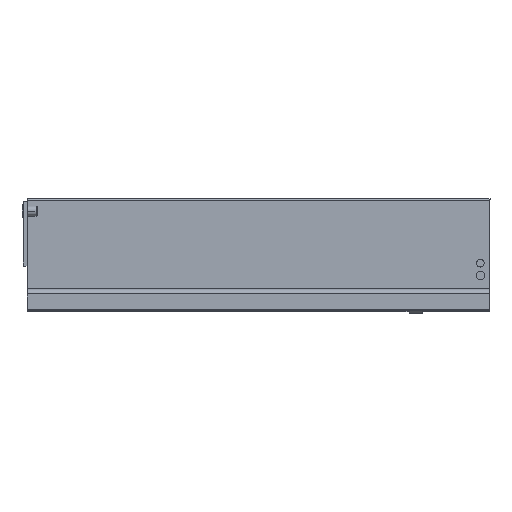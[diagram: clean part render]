
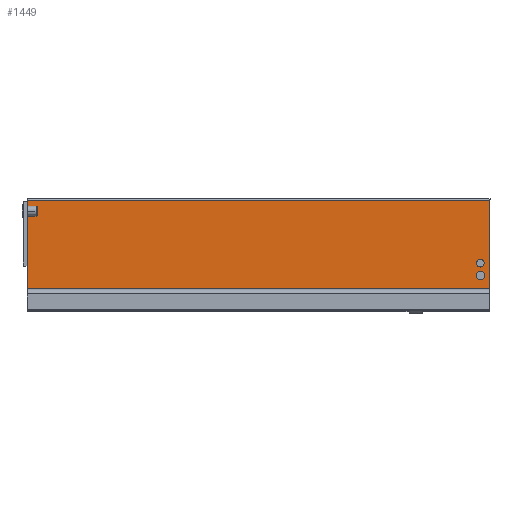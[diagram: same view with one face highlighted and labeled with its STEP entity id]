
A CAD part, left-side view. The second image highlights one B-rep face of the part: STEP entity #1449.
In plain terms, the highlighted planar face has unit normal (-1, 0, 0).
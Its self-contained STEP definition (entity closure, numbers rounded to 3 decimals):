
#296 = CARTESIAN_POINT ( 'NONE',  ( -21.5, 0., 5.395 ) ) ;
#297 = CARTESIAN_POINT ( 'NONE',  ( -21.5, 0., 100. ) ) ;
#314 = CARTESIAN_POINT ( 'NONE',  ( -21.5, 497., 100. ) ) ;
#315 = CARTESIAN_POINT ( 'NONE',  ( -21.5, 497., 5.395 ) ) ;
#335 = CARTESIAN_POINT ( 'NONE',  ( -21.5, 10.4, 28.9 ) ) ;
#337 = CARTESIAN_POINT ( 'NONE',  ( -21.5, 10.4, 37.1 ) ) ;
#342 = CARTESIAN_POINT ( 'NONE',  ( -21.5, 10.4, 15.4 ) ) ;
#343 = CARTESIAN_POINT ( 'NONE',  ( -21.5, 10.4, 24.6 ) ) ;
#738 = ORIENTED_EDGE ( 'NONE', *, *, #1469, .F. ) ;
#739 = ORIENTED_EDGE ( 'NONE', *, *, #1473, .F. ) ;
#747 = EDGE_LOOP ( 'NONE', ( #780, #738 ) ) ;
#749 = ORIENTED_EDGE ( 'NONE', *, *, #1540, .F. ) ;
#761 = EDGE_LOOP ( 'NONE', ( #779, #778, #782, #784 ) ) ;
#762 = EDGE_LOOP ( 'NONE', ( #749, #739 ) ) ;
#778 = ORIENTED_EDGE ( 'NONE', *, *, #1536, .T. ) ;
#779 = ORIENTED_EDGE ( 'NONE', *, *, #1535, .T. ) ;
#780 = ORIENTED_EDGE ( 'NONE', *, *, #1539, .F. ) ;
#782 = ORIENTED_EDGE ( 'NONE', *, *, #1537, .F. ) ;
#784 = ORIENTED_EDGE ( 'NONE', *, *, #1538, .F. ) ;
#862 = PLANE ( 'NONE',  #1697 ) ;
#863 = CARTESIAN_POINT ( 'NONE',  ( -21.5, 497., 100. ) ) ;
#864 = DIRECTION ( 'NONE',  ( -1., 0., 0. ) ) ;
#866 = DIRECTION ( 'NONE',  ( 0., 0., -1. ) ) ;
#935 = CARTESIAN_POINT ( 'NONE',  ( -21.5, 10.4, 33. ) ) ;
#936 = DIRECTION ( 'NONE',  ( -1., 0., 0. ) ) ;
#937 = DIRECTION ( 'NONE',  ( 0., 0., -1. ) ) ;
#945 = CARTESIAN_POINT ( 'NONE',  ( -21.5, 10.4, 20. ) ) ;
#946 = DIRECTION ( 'NONE',  ( -1., 0., 0. ) ) ;
#947 = DIRECTION ( 'NONE',  ( 0., 0., -1. ) ) ;
#1090 = CARTESIAN_POINT ( 'NONE',  ( -21.5, 497., 100. ) ) ;
#1091 = DIRECTION ( 'NONE',  ( 0., 0., -1. ) ) ;
#1092 = CARTESIAN_POINT ( 'NONE',  ( -21.5, 144.577, 5.395 ) ) ;
#1093 = DIRECTION ( 'NONE',  ( 0., -1., 0. ) ) ;
#1094 = CARTESIAN_POINT ( 'NONE',  ( -21.5, 0., 100. ) ) ;
#1095 = DIRECTION ( 'NONE',  ( 0., 0., -1. ) ) ;
#1096 = CARTESIAN_POINT ( 'NONE',  ( -21.5, 144.577, 100. ) ) ;
#1097 = DIRECTION ( 'NONE',  ( 0., -1., 0. ) ) ;
#1098 = CARTESIAN_POINT ( 'NONE',  ( -21.5, 10.4, 33. ) ) ;
#1099 = DIRECTION ( 'NONE',  ( -1., 0., 0. ) ) ;
#1100 = DIRECTION ( 'NONE',  ( 0., 0., -1. ) ) ;
#1101 = CARTESIAN_POINT ( 'NONE',  ( -21.5, 10.4, 20. ) ) ;
#1102 = DIRECTION ( 'NONE',  ( -1., 0., 0. ) ) ;
#1103 = DIRECTION ( 'NONE',  ( 0., 0., -1. ) ) ;
#1449 = ADVANCED_FACE ( 'NONE', ( #2214, #2213, #2212 ), #862, .T. ) ;
#1469 = EDGE_CURVE ( 'NONE', #1873, #1875, #2168, .T. ) ;
#1473 = EDGE_CURVE ( 'NONE', #1880, #1881, #2162, .T. ) ;
#1535 = EDGE_CURVE ( 'NONE', #1852, #1853, #2045, .T. ) ;
#1536 = EDGE_CURVE ( 'NONE', #1853, #1834, #2043, .T. ) ;
#1537 = EDGE_CURVE ( 'NONE', #1835, #1834, #2041, .T. ) ;
#1538 = EDGE_CURVE ( 'NONE', #1852, #1835, #2039, .T. ) ;
#1539 = EDGE_CURVE ( 'NONE', #1875, #1873, #2037, .T. ) ;
#1540 = EDGE_CURVE ( 'NONE', #1881, #1880, #2035, .T. ) ;
#1697 = AXIS2_PLACEMENT_3D ( 'NONE', #863, #864, #866 ) ;
#1716 = AXIS2_PLACEMENT_3D ( 'NONE', #935, #936, #937 ) ;
#1718 = AXIS2_PLACEMENT_3D ( 'NONE', #945, #946, #947 ) ;
#1735 = AXIS2_PLACEMENT_3D ( 'NONE', #1098, #1099, #1100 ) ;
#1736 = AXIS2_PLACEMENT_3D ( 'NONE', #1101, #1102, #1103 ) ;
#1834 = VERTEX_POINT ( 'NONE', #296 ) ;
#1835 = VERTEX_POINT ( 'NONE', #297 ) ;
#1852 = VERTEX_POINT ( 'NONE', #314 ) ;
#1853 = VERTEX_POINT ( 'NONE', #315 ) ;
#1873 = VERTEX_POINT ( 'NONE', #335 ) ;
#1875 = VERTEX_POINT ( 'NONE', #337 ) ;
#1880 = VERTEX_POINT ( 'NONE', #342 ) ;
#1881 = VERTEX_POINT ( 'NONE', #343 ) ;
#2035 = CIRCLE ( 'NONE', #1736, 4.6 ) ;
#2037 = CIRCLE ( 'NONE', #1735, 4.1 ) ;
#2038 = VECTOR ( 'NONE', #1097, 1000. ) ;
#2039 = LINE ( 'NONE', #1096, #2038 ) ;
#2040 = VECTOR ( 'NONE', #1095, 1000. ) ;
#2041 = LINE ( 'NONE', #1094, #2040 ) ;
#2042 = VECTOR ( 'NONE', #1093, 1000. ) ;
#2043 = LINE ( 'NONE', #1092, #2042 ) ;
#2044 = VECTOR ( 'NONE', #1091, 1000. ) ;
#2045 = LINE ( 'NONE', #1090, #2044 ) ;
#2162 = CIRCLE ( 'NONE', #1718, 4.6 ) ;
#2168 = CIRCLE ( 'NONE', #1716, 4.1 ) ;
#2212 = FACE_BOUND ( 'NONE', #762, .T. ) ;
#2213 = FACE_BOUND ( 'NONE', #747, .T. ) ;
#2214 = FACE_OUTER_BOUND ( 'NONE', #761, .T. ) ;
